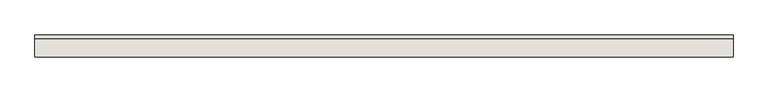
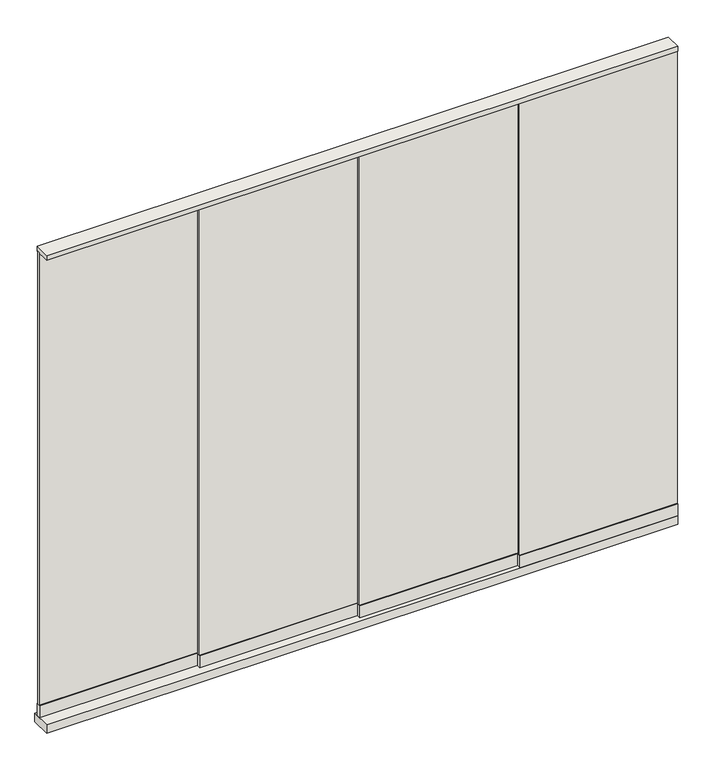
"""IFC4 building model written with IfcOpenShell, lengths in millimetres: wall geometry, Renson_Algarve_Glass_Sliding_Panel : Renson_Algarve_Glass_Sliding_Panel."""

from ifc_helpers import new_model, si_unit, frame, origin, origin_with_axes, place, context, project, spatial, polyline, outline, extrude, source, transform, mapped, element, save


def wall_12b1d7bd(model_context):
    return source(origin(), model_context, "Body", "SweptSolid", [
        extrude(outline(polyline([(750.0, 0.0), (-1750.0, 0.0), (-1750.0, 80.0), (750.0, 80.0), (750.0, 0.0)])), origin_with_axes(), (0.0, 0.0, 1.0), 35.0),
        extrude(outline(polyline([(750.0, 3.0), (125.0, 3.0), (125.0, 13.0), (750.0, 13.0), (750.0, 3.0)])), frame((0.0, 0.0, 86.0), z_axis=(0.0, 0.0, 1.0), x_axis=(1.0, 0.0, 0.0)), (0.0, 0.0, 1.0), 1894.0),
        extrude(outline(polyline([(160.0, 19.0), (-500.0, 19.0), (-500.0, 29.0), (160.0, 29.0), (160.0, 19.0)])), frame((0.0, 0.0, 86.0), z_axis=(0.0, 0.0, 1.0), x_axis=(1.0, 0.0, 0.0)), (0.0, 0.0, 1.0), 1894.0),
        extrude(outline(polyline([(-1090.0, 51.0), (-1750.0, 51.0), (-1750.0, 61.0), (-1090.0, 61.0), (-1090.0, 51.0)])), frame((0.0, 0.0, 86.0), z_axis=(0.0, 0.0, 1.0), x_axis=(1.0, 0.0, 0.0)), (0.0, 0.0, 1.0), 1894.0),
        extrude(outline(polyline([(750.0, 0.0), (-1750.0, 0.0), (-1750.0, 64.0), (750.0, 64.0), (750.0, 0.0)])), frame((0.0, 0.0, 1980.0), z_axis=(0.0, 0.0, 1.0), x_axis=(1.0, 0.0, 0.0)), (0.0, 0.0, 1.0), 20.0),
        extrude(outline(polyline([(-1090.0, 48.0), (-1750.0, 48.0), (-1750.0, 64.0), (-1090.0, 64.0), (-1090.0, 48.0)])), frame((0.0, 0.0, 35.0), z_axis=(0.0, 0.0, 1.0), x_axis=(1.0, 0.0, 0.0)), (0.0, 0.0, 1.0), 51.0),
        extrude(outline(polyline([(-465.0, 35.0), (-1125.0, 35.0), (-1125.0, 45.0), (-465.0, 45.0), (-465.0, 35.0)])), frame((0.0, 0.0, 86.0), z_axis=(0.0, 0.0, 1.0), x_axis=(1.0, 0.0, 0.0)), (0.0, 0.0, 1.0), 1894.0),
        extrude(outline(polyline([(750.0, 0.0), (125.0, 0.0), (125.0, 16.0), (750.0, 16.0), (750.0, 0.0)])), frame((0.0, 0.0, 35.0), z_axis=(0.0, 0.0, 1.0), x_axis=(1.0, 0.0, 0.0)), (0.0, 0.0, 1.0), 51.0),
        extrude(outline(polyline([(160.0, 16.0), (-500.0, 16.0), (-500.0, 32.0), (160.0, 32.0), (160.0, 16.0)])), frame((0.0, 0.0, 35.0), z_axis=(0.0, 0.0, 1.0), x_axis=(1.0, 0.0, 0.0)), (0.0, 0.0, 1.0), 51.0),
        extrude(outline(polyline([(-465.0, 32.0), (-1125.0, 32.0), (-1125.0, 48.0), (-465.0, 48.0), (-465.0, 32.0)])), frame((0.0, 0.0, 35.0), z_axis=(0.0, 0.0, 1.0), x_axis=(1.0, 0.0, 0.0)), (0.0, 0.0, 1.0), 51.0),
    ])


if __name__ == "__main__":
    model = new_model("IFC4")
    model_context = context("Model", 3, world=origin())
    ifc_project = project(units=[si_unit("LENGTHUNIT", "METRE", prefix="MILLI")], contexts=[model_context])
    site = spatial("IfcSite", under=ifc_project)
    building = spatial("IfcBuilding", under=site)
    placement = place(None, origin())
    wall_shape = wall_12b1d7bd(model_context)
    element("IfcWall", 1, ObjectType="Renson_Algarve_Glass_Sliding_Panel : Renson_Algarve_Glass_Sliding_Panel", at=placement, inside=building, context=model_context, shape_type="MappedRepresentation", body=[
        mapped(wall_shape, transform((0.0, 0.0, 0.0), x_axis=(1.0, 0.0, 0.0), y_axis=(0.0, 1.0, 0.0), z_axis=(0.0, 0.0, 1.0))),
    ])
    save(model, "model.ifc")
